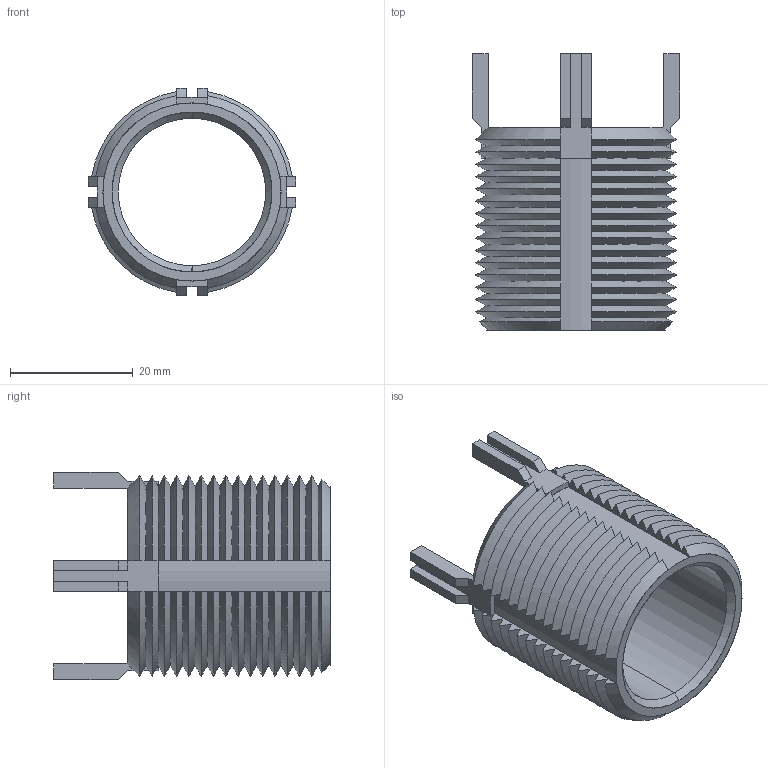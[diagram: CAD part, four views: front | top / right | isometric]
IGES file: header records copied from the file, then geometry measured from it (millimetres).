
Start section: SolidWorks IGES file using analytic representation for surfaces
Global section: file name: C:\Users\IanO\Desktop\PDF data sheets and models from M drive\TR1525_v2_20230326_IGES\TR1525.66175.igs; native system: SolidWorks 2019; preprocessor: SolidWorks 2019; author: IanO; date: 230326.185231; units: millimetre
Bounding box: 33.77 x 45 x 33.77 mm (x, y, z)
Surface area: 9665.1 mm2 (no closed solid volume)
Topology: 0 solids, 0 shells, 228 faces, 1344 edges, 1344 vertices
Faces by surface type: revolution 138, bspline 90
